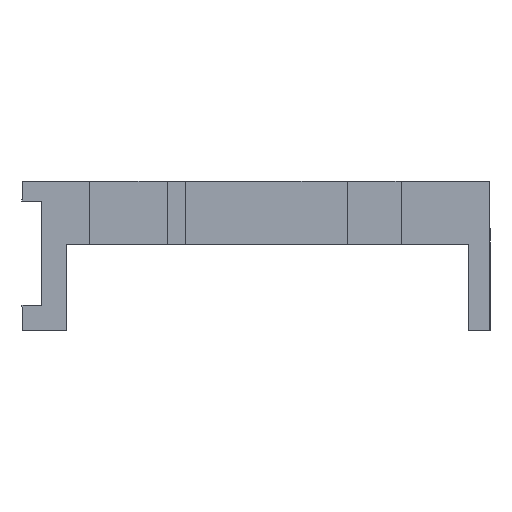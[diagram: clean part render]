
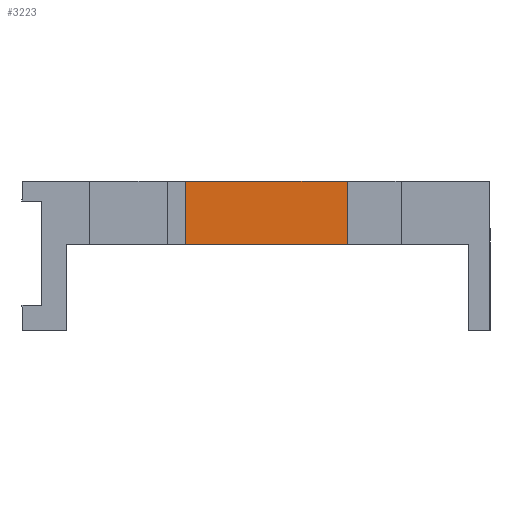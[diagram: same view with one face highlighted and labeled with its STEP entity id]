
A CAD part, left-side view. The second image highlights one B-rep face of the part: STEP entity #3223.
In plain terms, the highlighted planar face has unit normal (-1, 0, 0).
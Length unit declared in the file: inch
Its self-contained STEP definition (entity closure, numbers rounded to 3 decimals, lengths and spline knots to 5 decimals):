
#42 = ORIENTED_EDGE ( 'NONE', *, *, #4128, .T. ) ;
#351 = LINE ( 'NONE', #1365, #352 ) ;
#352 = VECTOR ( 'NONE', #1720, 39.37008 ) ;
#885 = FACE_OUTER_BOUND ( 'NONE', #5220, .T. ) ;
#1074 = LINE ( 'NONE', #2311, #1080 ) ;
#1080 = VECTOR ( 'NONE', #2305, 39.37008 ) ;
#1144 = LINE ( 'NONE', #2318, #1245 ) ;
#1195 = VECTOR ( 'NONE', #2226, 39.37008 ) ;
#1225 = LINE ( 'NONE', #2225, #1195 ) ;
#1245 = VECTOR ( 'NONE', #2330, 39.37008 ) ;
#1365 = CARTESIAN_POINT ( 'NONE',  ( -4.63386, 0.3189, 0.01998 ) ) ;
#1446 = CARTESIAN_POINT ( 'NONE',  ( -4.63386, 0.1189, 0.12598 ) ) ;
#1520 = CARTESIAN_POINT ( 'NONE',  ( -4.63386, 0.1189, 0.01998 ) ) ;
#1720 = DIRECTION ( 'NONE',  ( 0., -1., 0. ) ) ;
#1877 = CARTESIAN_POINT ( 'NONE',  ( -4.63386, -0.15354, 0.01998 ) ) ;
#2013 = CARTESIAN_POINT ( 'NONE',  ( -4.63386, -0.15354, 0.12598 ) ) ;
#2225 = CARTESIAN_POINT ( 'NONE',  ( -4.63386, -0.15354, -0.12598 ) ) ;
#2226 = DIRECTION ( 'NONE',  ( 0., 0., 1. ) ) ;
#2305 = DIRECTION ( 'NONE',  ( 0., -1., 0. ) ) ;
#2311 = CARTESIAN_POINT ( 'NONE',  ( -4.63386, -0.3937, 0.12598 ) ) ;
#2318 = CARTESIAN_POINT ( 'NONE',  ( -4.63386, 0.1189, -0.12598 ) ) ;
#2330 = DIRECTION ( 'NONE',  ( 0., 0., 1. ) ) ;
#2864 = ORIENTED_EDGE ( 'NONE', *, *, #4217, .F. ) ;
#2865 = ORIENTED_EDGE ( 'NONE', *, *, #4218, .F. ) ;
#2911 = ORIENTED_EDGE ( 'NONE', *, *, #4377, .T. ) ;
#3004 = AXIS2_PLACEMENT_3D ( 'NONE', #4422, #4419, #4418 ) ;
#3223 = ADVANCED_FACE ( 'NONE', ( #885 ), #4421, .F. ) ;
#4128 = EDGE_CURVE ( 'NONE', #4781, #4785, #1225, .T. ) ;
#4217 = EDGE_CURVE ( 'NONE', #4782, #4764, #1144, .T. ) ;
#4218 = EDGE_CURVE ( 'NONE', #4764, #4785, #1074, .T. ) ;
#4377 = EDGE_CURVE ( 'NONE', #4782, #4781, #351, .T. ) ;
#4418 = DIRECTION ( 'NONE',  ( 0., 0., -1. ) ) ;
#4419 = DIRECTION ( 'NONE',  ( 1., 0., 0. ) ) ;
#4421 = PLANE ( 'NONE',  #3004 ) ;
#4422 = CARTESIAN_POINT ( 'NONE',  ( -4.63386, -0.3937, 0.12598 ) ) ;
#4764 = VERTEX_POINT ( 'NONE', #1446 ) ;
#4781 = VERTEX_POINT ( 'NONE', #1877 ) ;
#4782 = VERTEX_POINT ( 'NONE', #1520 ) ;
#4785 = VERTEX_POINT ( 'NONE', #2013 ) ;
#5220 = EDGE_LOOP ( 'NONE', ( #2911, #42, #2865, #2864 ) ) ;
